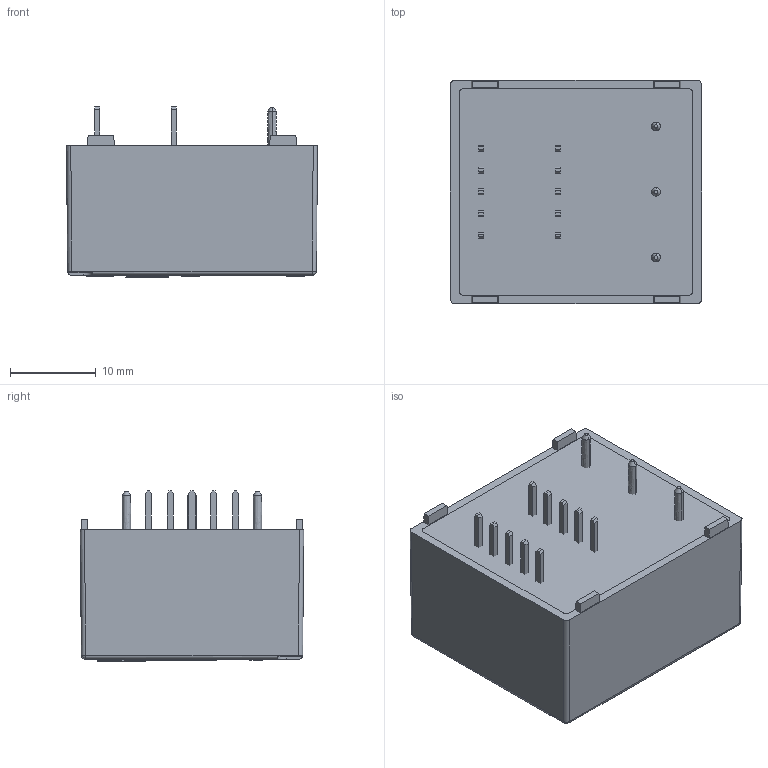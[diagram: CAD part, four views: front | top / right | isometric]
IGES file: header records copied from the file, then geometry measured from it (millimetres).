
Start section: Elysium IGES Interface
Global section: file name: C:\Documents and Settings\jdz\Desktop\LA25-NP.igs; native system: SolidDesigner 16.00A  16-Aug-2008; preprocessor: CoCreate IGES_3D V2.2; author: Unknown; organization: Unknown; date: 20090128.132625; units: millimetre
Bounding box: 29.2 x 26 x 19.8 mm (x, y, z)
Volume: 11516 mm3; surface area: 5461.5 mm2
Topology: 10 solids, 10 shells, 606 faces, 1585 edges, 1031 vertices
Faces by surface type: bspline 606
